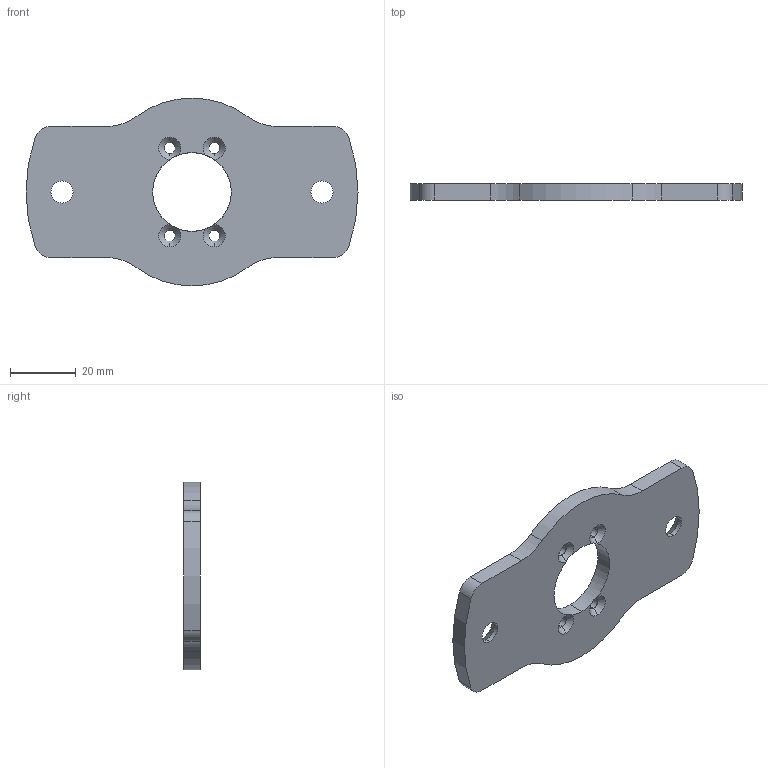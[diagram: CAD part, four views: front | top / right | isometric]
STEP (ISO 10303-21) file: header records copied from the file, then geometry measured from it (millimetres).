
FILE_DESCRIPTION (( 'STEP AP203' ), '1' );
FILE_NAME ('BKT-000033-XX REV A.STEP', '2016-10-21T21:56:01', ( '' ), ( '' ), 'SwSTEP 2.0', 'SolidWorks 2016', '' );
FILE_SCHEMA (( 'CONFIG_CONTROL_DESIGN' ));
Length unit declared in the file: millimetre
Products named in the file (1): BKT-000033-XX REV A
Bounding box: 101.3 x 5 x 57.3 mm (x, y, z)
Volume: 19011.2 mm3; surface area: 9838.7 mm2
Topology: 1 solids, 1 shells, 45 faces, 129 edges, 82 vertices
Faces by surface type: cylinder 27, cone 12, plane 6
Entity records: 1634 total; most frequent: CARTESIAN_POINT 293, DIRECTION 291, ORIENTED_EDGE 258, EDGE_CURVE 129, AXIS2_PLACEMENT_3D 120, VERTEX_POINT 82, CIRCLE 74, EDGE_LOOP 55
